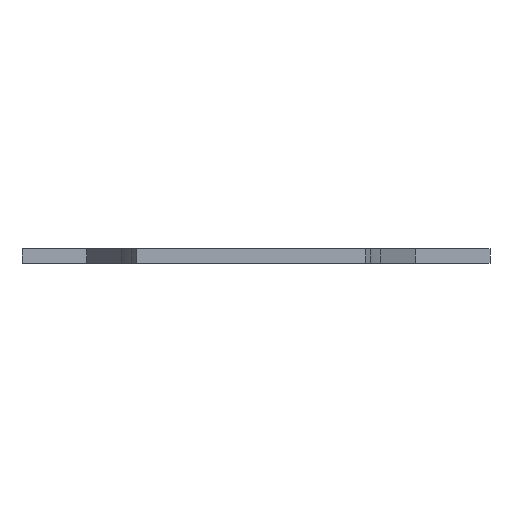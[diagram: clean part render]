
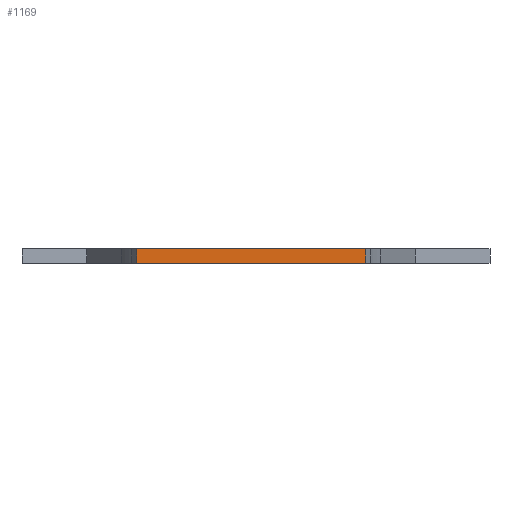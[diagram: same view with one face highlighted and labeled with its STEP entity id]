
A CAD part, left-side view. The second image highlights one B-rep face of the part: STEP entity #1169.
In plain terms, the highlighted planar face has unit normal (-1, 0, 0).
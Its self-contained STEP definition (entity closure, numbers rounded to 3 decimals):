
#227 = VERTEX_POINT('',#228);
#228 = CARTESIAN_POINT('',(-75.,-23.,0.));
#234 = EDGE_CURVE('',#235,#227,#237,.T.);
#235 = VERTEX_POINT('',#236);
#236 = CARTESIAN_POINT('',(-75.,23.,0.));
#237 = LINE('',#238,#239);
#238 = CARTESIAN_POINT('',(-75.,23.,0.));
#239 = VECTOR('',#240,1.);
#240 = DIRECTION('',(0.,-1.,0.));
#608 = VERTEX_POINT('',#609);
#609 = CARTESIAN_POINT('',(-75.,23.,3.));
#615 = EDGE_CURVE('',#608,#616,#618,.T.);
#616 = VERTEX_POINT('',#617);
#617 = CARTESIAN_POINT('',(-75.,-23.,3.));
#618 = LINE('',#619,#620);
#619 = CARTESIAN_POINT('',(-75.,23.,3.));
#620 = VECTOR('',#621,1.);
#621 = DIRECTION('',(0.,-1.,0.));
#1142 = EDGE_CURVE('',#235,#608,#1143,.T.);
#1143 = LINE('',#1144,#1145);
#1144 = CARTESIAN_POINT('',(-75.,23.,0.));
#1145 = VECTOR('',#1146,1.);
#1146 = DIRECTION('',(0.,0.,1.));
#1169 = ADVANCED_FACE('',(#1170),#1181,.F.);
#1170 = FACE_BOUND('',#1171,.F.);
#1171 = EDGE_LOOP('',(#1172,#1173,#1174,#1180));
#1172 = ORIENTED_EDGE('',*,*,#1142,.T.);
#1173 = ORIENTED_EDGE('',*,*,#615,.T.);
#1174 = ORIENTED_EDGE('',*,*,#1175,.F.);
#1175 = EDGE_CURVE('',#227,#616,#1176,.T.);
#1176 = LINE('',#1177,#1178);
#1177 = CARTESIAN_POINT('',(-75.,-23.,0.));
#1178 = VECTOR('',#1179,1.);
#1179 = DIRECTION('',(0.,0.,1.));
#1180 = ORIENTED_EDGE('',*,*,#234,.F.);
#1181 = PLANE('',#1182);
#1182 = AXIS2_PLACEMENT_3D('',#1183,#1184,#1185);
#1183 = CARTESIAN_POINT('',(-75.,23.,0.));
#1184 = DIRECTION('',(1.,0.,0.));
#1185 = DIRECTION('',(0.,-1.,0.));
